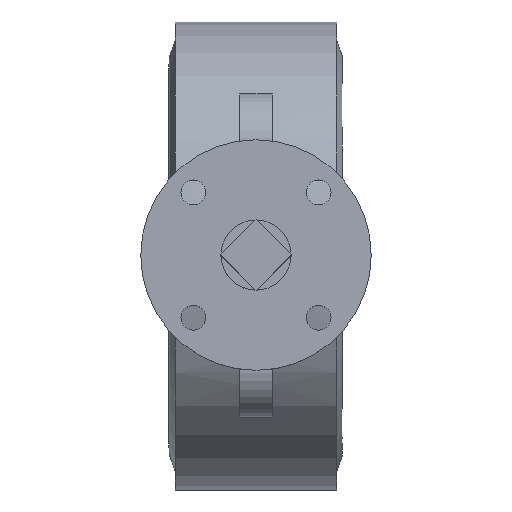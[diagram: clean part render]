
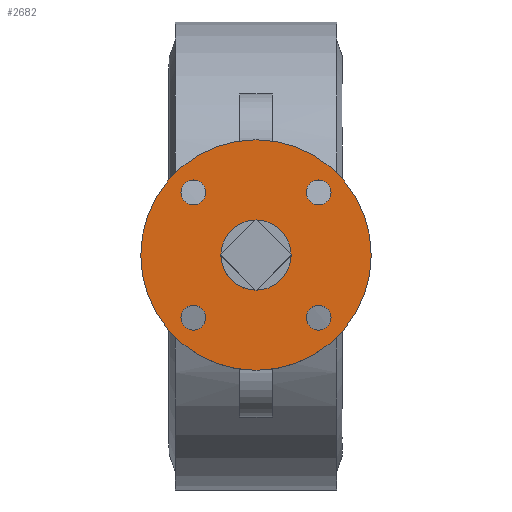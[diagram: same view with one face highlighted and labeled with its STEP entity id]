
A CAD part, top view. The second image highlights one B-rep face of the part: STEP entity #2682.
In plain terms, the highlighted planar face has unit normal (0, 0, 1).
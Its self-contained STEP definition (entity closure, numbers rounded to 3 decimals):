
#2682=ADVANCED_FACE('',(#5290,#5292,#5294,#5296,#5298,#5300),#5302,.T.);
#5290=FACE_BOUND('',#5291,.T.);
#5291=EDGE_LOOP('',(#8322));
#5292=FACE_BOUND('',#5293,.T.);
#5293=EDGE_LOOP('',(#8323));
#5294=FACE_BOUND('',#5295,.T.);
#5295=EDGE_LOOP('',(#8324));
#5296=FACE_BOUND('',#5297,.T.);
#5297=EDGE_LOOP('',(#8325));
#5298=FACE_BOUND('',#5299,.T.);
#5299=EDGE_LOOP('',(#8326));
#5300=FACE_BOUND('',#5301,.T.);
#5301=EDGE_LOOP('',(#8327));
#5302=PLANE('',#5303);
#5303=AXIS2_PLACEMENT_3D('',#5304,#5305,#5306);
#5304=CARTESIAN_POINT('',(0.,0.,155.));
#5305=DIRECTION('',(0.,0.,1.));
#5306=DIRECTION('',(0.,-1.,0.));
#8322=ORIENTED_EDGE('',*,*,#9408,.T.);
#8323=ORIENTED_EDGE('',*,*,#9537,.T.);
#8324=ORIENTED_EDGE('',*,*,#9409,.T.);
#8325=ORIENTED_EDGE('',*,*,#9410,.T.);
#8326=ORIENTED_EDGE('',*,*,#9411,.T.);
#8327=ORIENTED_EDGE('',*,*,#9412,.T.);
#9408=EDGE_CURVE('',#11010,#11010,#11011,.T.);
#9409=EDGE_CURVE('',#11012,#11012,#11013,.F.);
#9410=EDGE_CURVE('',#11014,#11014,#11015,.F.);
#9411=EDGE_CURVE('',#11016,#11016,#11017,.F.);
#9412=EDGE_CURVE('',#11018,#11018,#11019,.F.);
#9537=EDGE_CURVE('',#11207,#11207,#11208,.F.);
#11010=VERTEX_POINT('',#14986);
#11011=CIRCLE('',#14987,32.5);
#11012=VERTEX_POINT('',#14991);
#11013=CIRCLE('',#14992,3.5);
#11014=VERTEX_POINT('',#14996);
#11015=CIRCLE('',#14997,3.5);
#11016=VERTEX_POINT('',#15001);
#11017=CIRCLE('',#15002,3.5);
#11018=VERTEX_POINT('',#15006);
#11019=CIRCLE('',#15007,3.5);
#11207=VERTEX_POINT('',#15572);
#11208=CIRCLE('',#15573,9.899);
#14986=CARTESIAN_POINT('',(-32.5,0.,155.));
#14987=AXIS2_PLACEMENT_3D('',#14988,#14989,#14990);
#14988=CARTESIAN_POINT('',(0.,0.,155.));
#14989=DIRECTION('',(0.,0.,1.));
#14990=DIRECTION('',(-1.,0.,0.));
#14991=CARTESIAN_POINT('',(-21.178,-17.678,155.));
#14992=AXIS2_PLACEMENT_3D('',#14993,#14994,#14995);
#14993=CARTESIAN_POINT('',(-17.678,-17.678,155.));
#14994=DIRECTION('',(0.,0.,1.));
#14995=DIRECTION('',(-1.,0.,0.));
#14996=CARTESIAN_POINT('',(17.678,-21.178,155.));
#14997=AXIS2_PLACEMENT_3D('',#14998,#14999,#15000);
#14998=CARTESIAN_POINT('',(17.678,-17.678,155.));
#14999=DIRECTION('',(0.,0.,1.));
#15000=DIRECTION('',(0.,-1.,0.));
#15001=CARTESIAN_POINT('',(21.178,17.678,155.));
#15002=AXIS2_PLACEMENT_3D('',#15003,#15004,#15005);
#15003=CARTESIAN_POINT('',(17.678,17.678,155.));
#15004=DIRECTION('',(0.,0.,1.));
#15005=DIRECTION('',(1.,0.,0.));
#15006=CARTESIAN_POINT('',(-17.678,21.178,155.));
#15007=AXIS2_PLACEMENT_3D('',#15008,#15009,#15010);
#15008=CARTESIAN_POINT('',(-17.678,17.678,155.));
#15009=DIRECTION('',(0.,0.,1.));
#15010=DIRECTION('',(0.,1.,0.));
#15572=CARTESIAN_POINT('',(0.,-9.899,155.));
#15573=AXIS2_PLACEMENT_3D('',#15574,#15575,#15576);
#15574=CARTESIAN_POINT('',(0.,0.,155.));
#15575=DIRECTION('',(0.,0.,1.));
#15576=DIRECTION('',(0.,-1.,0.));
